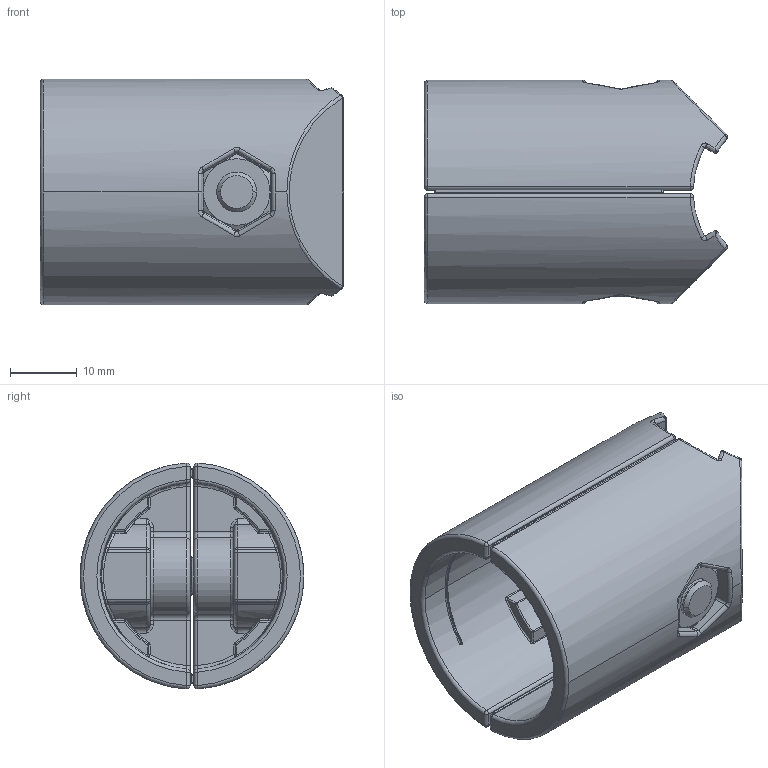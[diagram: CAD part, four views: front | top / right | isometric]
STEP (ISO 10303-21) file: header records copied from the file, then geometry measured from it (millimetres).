
FILE_DESCRIPTION (( 'STEP AP214' ), '1' );
FILE_NAME ('099rv2890ls01.STEP', '2012-11-05T12:30:03', ( '' ), ( '' ), 'SwSTEP 2.0', 'SolidWorks 2012', '' );
FILE_SCHEMA (( 'AUTOMOTIVE_DESIGN' ));
Length unit declared in the file: millimetre
Products named in the file (4): 106163 - 4DIN934m6m_Hexagon Nut ISO 4032 - M6 - W - C; 106019 - 4DIN912M0625M_DIN 912 M6 x 25 --- 25N; 099rv2890lr01_Standard; 099rv2890ls01
Assembly tree (4 placements, depth 2):
  099rv2890ls01
    099rv2890lr01_Standard  x2
    106019 - 4DIN912M0625M_DIN 912 M6 x 25 --- 25N
    106163 - 4DIN934m6m_Hexagon Nut ISO 4032 - M6 - W - C
Bounding box: 45.56 x 33.59 x 33.94 mm (x, y, z)
Volume: 19730.9 mm3; surface area: 13578.1 mm2
Topology: 4 solids, 4 shells, 899 faces, 2010 edges, 1083 vertices
Faces by surface type: cylinder 262, torus 206, bspline 150, plane 115, cone 100, sphere 66
Entity records: 16907 total; most frequent: CARTESIAN_POINT 4961, DIRECTION 2671, ORIENTED_EDGE 2400, EDGE_CURVE 1200, AXIS2_PLACEMENT_3D 1156, CIRCLE 666, VERTEX_POINT 654, EDGE_LOOP 568
